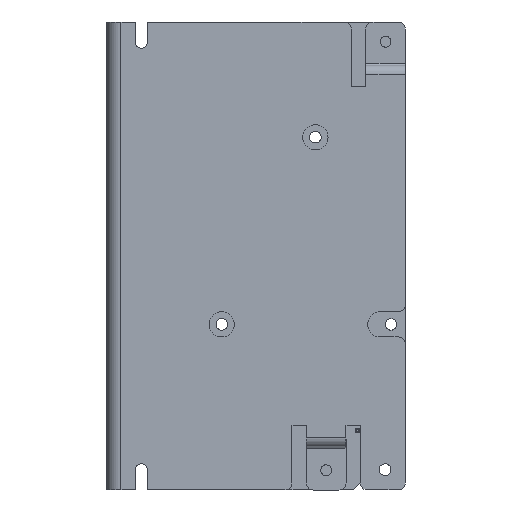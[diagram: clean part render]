
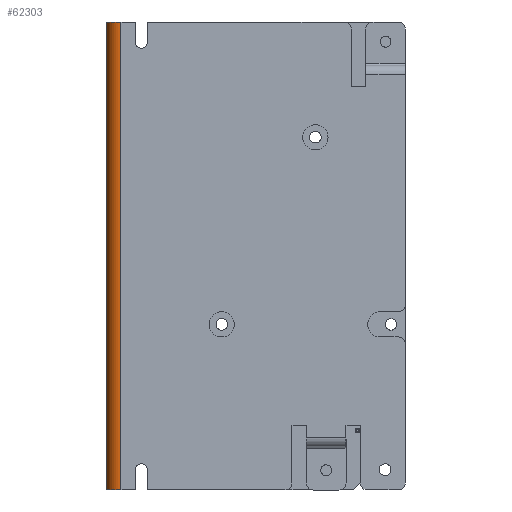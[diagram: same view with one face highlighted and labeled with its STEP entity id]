
A CAD part, front view. The second image highlights one B-rep face of the part: STEP entity #62303.
In plain terms, the highlighted cylindrical face has radius 4 mm (diameter 8 mm), a partial arc.
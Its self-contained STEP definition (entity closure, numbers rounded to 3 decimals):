
#955 = LINE ( 'NONE', #63058, #41141 ) ;
#1160 = CARTESIAN_POINT ( 'NONE',  ( 4., 4., -65. ) ) ;
#1407 = EDGE_CURVE ( 'NONE', #11954, #33894, #955, .T. ) ;
#1609 = DIRECTION ( 'NONE',  ( 0., 0., 1. ) ) ;
#3008 = AXIS2_PLACEMENT_3D ( 'NONE', #22238, #44002, #38869 ) ;
#6169 = CARTESIAN_POINT ( 'NONE',  ( 0., 4., -65. ) ) ;
#9142 = ORIENTED_EDGE ( 'NONE', *, *, #27818, .F. ) ;
#10905 = CARTESIAN_POINT ( 'NONE',  ( 4., 0., 65. ) ) ;
#11550 = VERTEX_POINT ( 'NONE', #10905 ) ;
#11954 = VERTEX_POINT ( 'NONE', #23148 ) ;
#13710 = CARTESIAN_POINT ( 'NONE',  ( 4., 0., -65. ) ) ;
#19505 = CIRCLE ( 'NONE', #64568, 4. ) ;
#20654 = DIRECTION ( 'NONE',  ( -1., 0., 0. ) ) ;
#22238 = CARTESIAN_POINT ( 'NONE',  ( 4., 4., 65. ) ) ;
#23148 = CARTESIAN_POINT ( 'NONE',  ( 0., 4., 65. ) ) ;
#23621 = ORIENTED_EDGE ( 'NONE', *, *, #1407, .T. ) ;
#27818 = EDGE_CURVE ( 'NONE', #11954, #11550, #42798, .T. ) ;
#30807 = ORIENTED_EDGE ( 'NONE', *, *, #31688, .F. ) ;
#31688 = EDGE_CURVE ( 'NONE', #11550, #48604, #48272, .T. ) ;
#33182 = DIRECTION ( 'NONE',  ( -1., 0., 0. ) ) ;
#33894 = VERTEX_POINT ( 'NONE', #6169 ) ;
#36225 = DIRECTION ( 'NONE',  ( 0., 0., -1. ) ) ;
#36645 = CARTESIAN_POINT ( 'NONE',  ( 4., 4., 65. ) ) ;
#38869 = DIRECTION ( 'NONE',  ( -1., 0., 0. ) ) ;
#39874 = VECTOR ( 'NONE', #36225, 1000. ) ;
#41141 = VECTOR ( 'NONE', #57919, 1000. ) ;
#42278 = CARTESIAN_POINT ( 'NONE',  ( 4., 0., 65. ) ) ;
#42541 = EDGE_LOOP ( 'NONE', ( #23621, #66900, #30807, #9142 ) ) ;
#42798 = CIRCLE ( 'NONE', #68733, 4. ) ;
#42894 = CYLINDRICAL_SURFACE ( 'NONE', #3008, 4. ) ;
#44002 = DIRECTION ( 'NONE',  ( 0., 0., -1. ) ) ;
#48272 = LINE ( 'NONE', #42278, #39874 ) ;
#48604 = VERTEX_POINT ( 'NONE', #13710 ) ;
#50419 = FACE_OUTER_BOUND ( 'NONE', #42541, .T. ) ;
#51102 = EDGE_CURVE ( 'NONE', #33894, #48604, #19505, .T. ) ;
#51838 = DIRECTION ( 'NONE',  ( 0., 0., 1. ) ) ;
#57919 = DIRECTION ( 'NONE',  ( 0., 0., -1. ) ) ;
#62303 = ADVANCED_FACE ( 'NONE', ( #50419 ), #42894, .T. ) ;
#63058 = CARTESIAN_POINT ( 'NONE',  ( 0., 4., 65. ) ) ;
#64568 = AXIS2_PLACEMENT_3D ( 'NONE', #1160, #1609, #33182 ) ;
#66900 = ORIENTED_EDGE ( 'NONE', *, *, #51102, .T. ) ;
#68733 = AXIS2_PLACEMENT_3D ( 'NONE', #36645, #51838, #20654 ) ;
